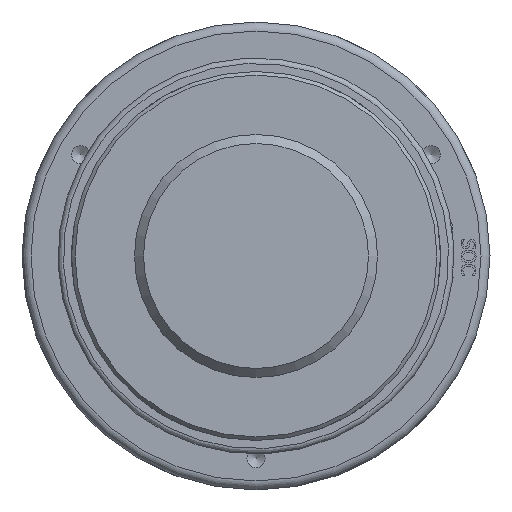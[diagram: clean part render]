
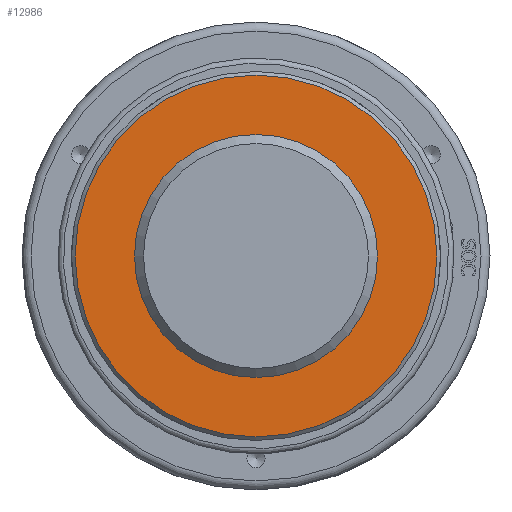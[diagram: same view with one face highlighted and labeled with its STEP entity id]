
A CAD part, front view. The second image highlights one B-rep face of the part: STEP entity #12986.
In plain terms, the highlighted planar face has unit normal (0, -1, 0) as drawn and (0, 1, 0) by its records, which use the part's own axes.
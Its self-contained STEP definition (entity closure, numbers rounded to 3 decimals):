
#90=CIRCLE('',#13635,100.5);
#92=CIRCLE('',#13639,64.253);
#177=FACE_BOUND('',#1677,.T.);
#395=PLANE('',#13638);
#874=FACE_OUTER_BOUND('',#1676,.T.);
#1676=EDGE_LOOP('',(#10180));
#1677=EDGE_LOOP('',(#10181));
#5678=VERTEX_POINT('',#20058);
#5692=VERTEX_POINT('',#20298);
#7299=EDGE_CURVE('',#5678,#5678,#90,.T.);
#7313=EDGE_CURVE('',#5692,#5692,#92,.T.);
#10180=ORIENTED_EDGE('',*,*,#7299,.F.);
#10181=ORIENTED_EDGE('',*,*,#7313,.T.);
#12986=ADVANCED_FACE('',(#874,#177),#395,.T.);
#13635=AXIS2_PLACEMENT_3D('',#20059,#14698,#14699);
#13638=AXIS2_PLACEMENT_3D('',#20297,#14704,#14705);
#13639=AXIS2_PLACEMENT_3D('',#20299,#14706,#14707);
#14698=DIRECTION('center_axis',(0.,-1.,0.));
#14699=DIRECTION('ref_axis',(1.,0.,0.));
#14704=DIRECTION('center_axis',(0.,1.,0.));
#14705=DIRECTION('ref_axis',(0.,0.,1.));
#14706=DIRECTION('center_axis',(0.,-1.,0.));
#14707=DIRECTION('ref_axis',(1.,0.,0.));
#20058=CARTESIAN_POINT('',(-100.5,67.5,0.));
#20059=CARTESIAN_POINT('Origin',(0.,67.5,0.));
#20297=CARTESIAN_POINT('Origin',(0.,67.5,0.));
#20298=CARTESIAN_POINT('',(-64.253,67.5,0.));
#20299=CARTESIAN_POINT('Origin',(0.,67.5,0.));
